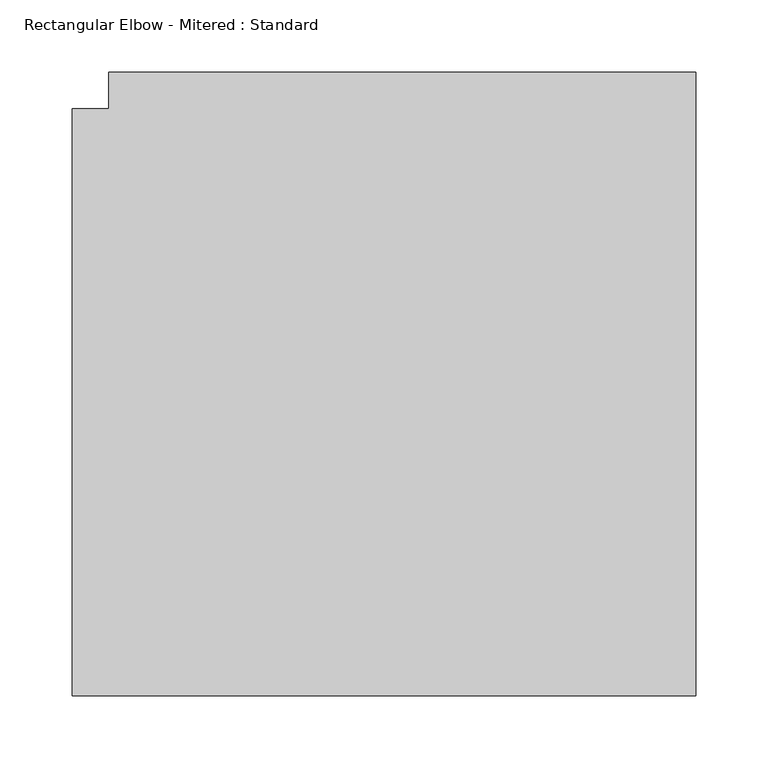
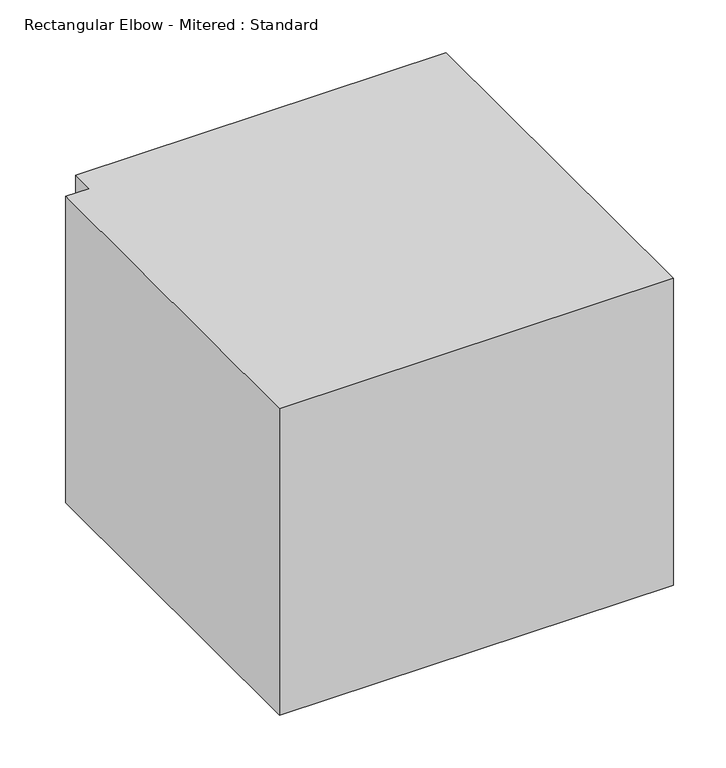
"""IFC4 building model written with IfcOpenShell, lengths in millimetres: duct fitting geometry, Rectangular Elbow - Mitered : Standard."""

from ifc_helpers import new_model, si_unit, frame, origin, place, context, project, spatial, polyline, outline, extrude, source, transform, mapped, element, save


def rectangular_elbow_mitered_standard_f5573d14(model_context):
    return source(origin(), model_context, "Body", "SweptSolid", [
        extrude(outline(polyline([(-228.6, -203.2), (-228.6, 203.2), (-203.2, 203.2), (-203.2, 228.6), (203.2, 228.6), (203.2, -203.2), (-228.6, -203.2)])), frame((0.0, 0.0, -177.8), z_axis=(0.0, 0.0, 1.0), x_axis=(1.0, 0.0, 0.0)), (0.0, 0.0, 1.0), 355.6),
    ])


if __name__ == "__main__":
    model = new_model("IFC4")
    model_context = context("Model", 3, world=origin())
    ifc_project = project(units=[si_unit("LENGTHUNIT", "METRE", prefix="MILLI")], contexts=[model_context])
    site = spatial("IfcSite", under=ifc_project)
    building = spatial("IfcBuilding", under=site)
    placement = place(None, origin())
    rectangular_elbow_mitered_standard_shape = rectangular_elbow_mitered_standard_f5573d14(model_context)
    element("IfcDuctFitting", 1, ObjectType="Rectangular Elbow - Mitered : Standard", at=placement, inside=building, context=model_context, shape_type="MappedRepresentation", body=[
        mapped(rectangular_elbow_mitered_standard_shape, transform((0.0, 0.0, 0.0), x_axis=(1.0, 0.0, 0.0), y_axis=(0.0, 1.0, 0.0), z_axis=(0.0, 0.0, 1.0))),
    ])
    save(model, "model.ifc")
